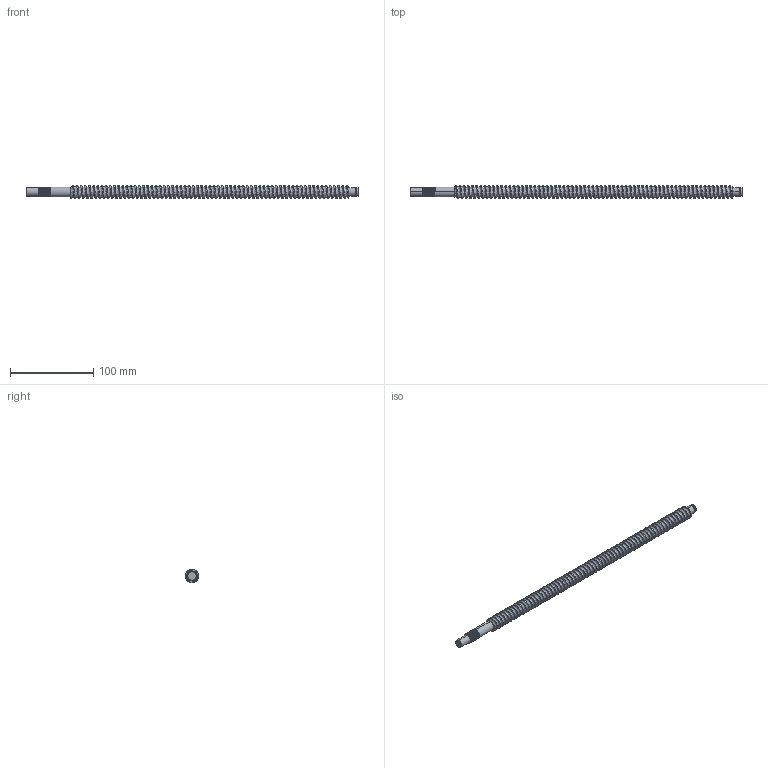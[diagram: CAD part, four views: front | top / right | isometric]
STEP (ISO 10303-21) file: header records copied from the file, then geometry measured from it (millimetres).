
FILE_DESCRIPTION (( 'STEP AP214' ), '1' );
FILE_NAME ('Pos.113 Spindel Z-Achse.STEP', '2017-03-12T10:22:35', ( 'C.Loibl@hotmail.com' ), ( '' ), 'SwSTEP 2.0', 'SolidWorks 2015', '' );
FILE_SCHEMA (( 'AUTOMOTIVE_DESIGN' ));
Length unit declared in the file: millimetre
Products named in the file (1): Pos.113 Spindel Z-Achse
Bounding box: 400 x 15.99 x 16 mm (x, y, z)
Volume: 54788.1 mm3; surface area: 24132.3 mm2
Topology: 1 solids, 1 shells, 188 faces, 545 edges, 362 vertices
Faces by surface type: cylinder 176, plane 8, bspline 4
Entity records: 26919 total; most frequent: CARTESIAN_POINT 22944, ORIENTED_EDGE 1084, DIRECTION 598, EDGE_CURVE 542, VERTEX_POINT 360, AXIS2_PLACEMENT_3D 210, EDGE_LOOP 192, ADVANCED_FACE 188
